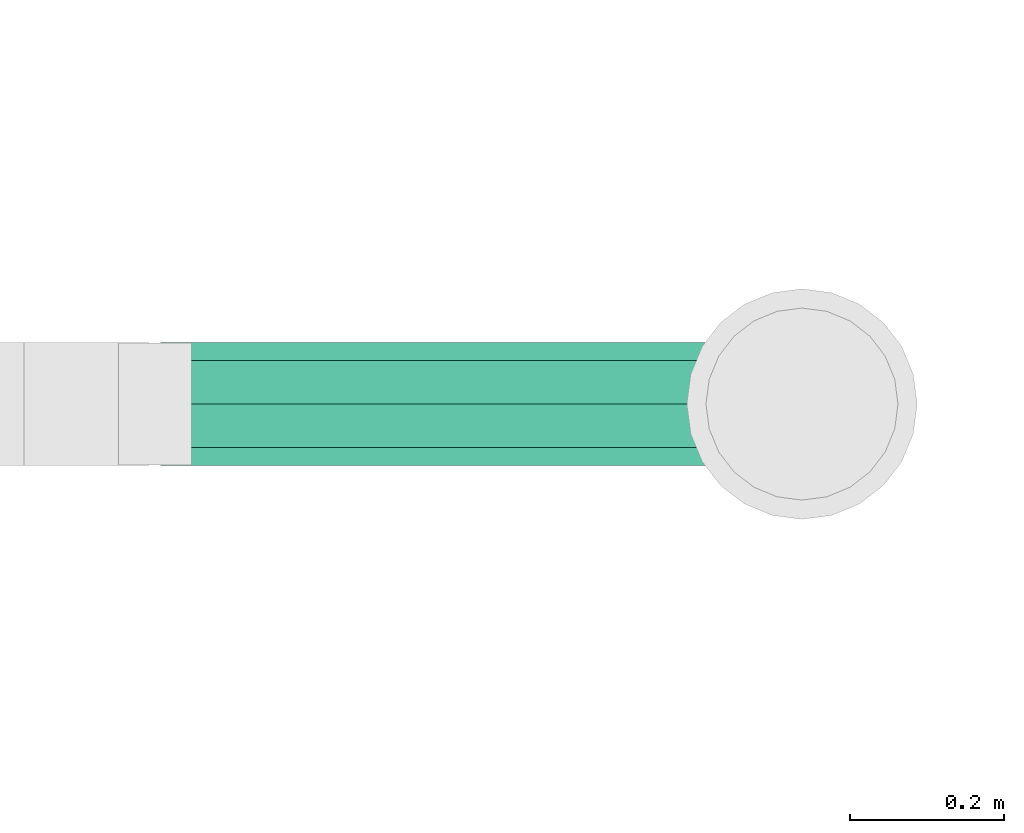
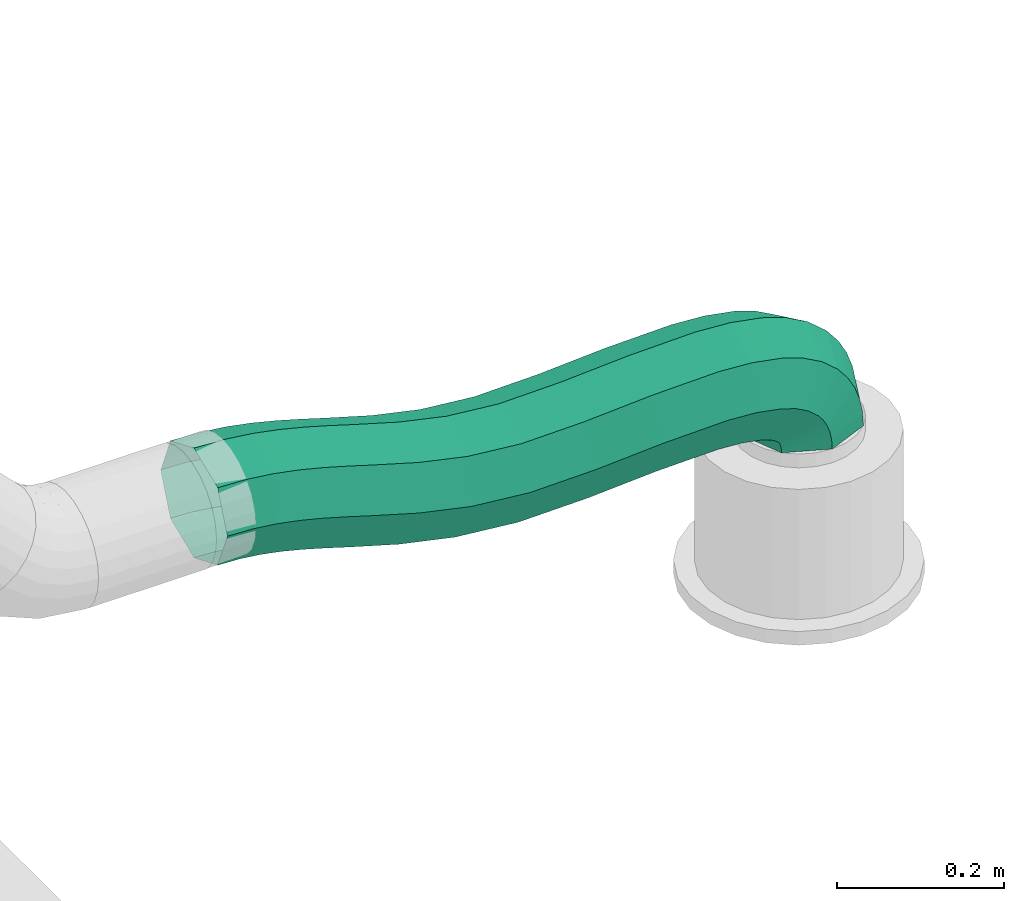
# One storey, part 25 of 119: 1 flow segment.
"""IFC2X3 building model written with IfcOpenShell, lengths in metres."""

from ifc_helpers import new_model, si_unit, direction, frame, origin, place, context, subcontext, project, spatial, open_shell, surface_model, source, transform, mapped, element, save


model = new_model("IFC2X3")

# Units and contexts
model_context = context("Model", 3, precision=1e-05, world=origin(), true_north=direction((-0.4480736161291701, 0.8939966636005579)))
body_context = subcontext(model_context, "Body", "Model", "MODEL_VIEW")
ifc_project = project(units=[si_unit("LENGTHUNIT", "METRE"), si_unit("AREAUNIT", "SQUARE_METRE"), si_unit("VOLUMEUNIT", "CUBIC_METRE"), si_unit("PLANEANGLEUNIT", "RADIAN"), si_unit("THERMODYNAMICTEMPERATUREUNIT", "KELVIN"), si_unit("MASSUNIT", "GRAM", prefix="KILO"), si_unit("TIMEUNIT", "SECOND")], contexts=[model_context])

# Site, building, storey
site_placement = place(None, origin())
site = spatial("IfcSite", under=ifc_project, at=site_placement, Name="Site 1", CompositionType="ELEMENT")
building_placement = place(site_placement, origin())
building = spatial("IfcBuilding", under=site, at=building_placement, Name="Undefined", CompositionType="ELEMENT")
storey_placement = place(building_placement, frame((0.0, 0.0, 5.4)))
storey = spatial("IfcBuildingStorey", under=building, at=storey_placement, Name="R+1", CompositionType="ELEMENT", Elevation=5.4)

# Flow segment
shared_shape = source(origin(), body_context, "Body", "SurfaceModel", [
    surface_model("IfcFaceBasedSurfaceModel", [(0.0733939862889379, 7.105427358e-15, 1.11022302e-16), (0.02176704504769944, 0.03291947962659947, 1.11022302e-16), (0.0, 0.0, 0.0), (0.05054803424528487, -0.034553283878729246, 2.818695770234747e-06), (-0.02184490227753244, -0.030906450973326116, -0.0028399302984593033), (0.027691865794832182, -0.06689431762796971, -0.002963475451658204), (-0.043543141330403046, -0.059946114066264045, -0.007872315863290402), (0.005155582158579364, -0.0970590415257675, -0.008185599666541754), (-0.06499777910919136, -0.08746443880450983, -0.014441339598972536), (-0.01691114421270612, -0.12536511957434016, -0.014938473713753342), (-0.08617160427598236, -0.11386855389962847, -0.021929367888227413), (-0.03844310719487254, -0.15221744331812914, -0.022551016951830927), (-0.10683839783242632, -0.13930237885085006, -0.029688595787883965), (-0.05910780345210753, -0.17764867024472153, -0.03030948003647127), (-0.14804404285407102, -0.19049045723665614, -0.04452208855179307), (-0.09975528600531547, -0.2281340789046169, -0.04495442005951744), (-0.18926424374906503, -0.24461396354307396, -0.05547253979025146), (-0.1396715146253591, -0.2805247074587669, -0.05558607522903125), (-0.23191867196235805, -0.3061810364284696, -0.0593930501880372), (-0.18076355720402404, -0.3398290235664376, -0.05937313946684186), (-0.2778999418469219, -0.37951889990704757, -0.05433115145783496), (-0.22576617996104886, -0.4116296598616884, -0.05438743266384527), (-0.3263917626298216, -0.45971354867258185, -0.04519091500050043), (-0.2742186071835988, -0.49176025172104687, -0.045253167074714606), (-0.3745892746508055, -0.5369149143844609, -0.039446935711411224), (-0.3230066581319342, -0.5699038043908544, -0.03944376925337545), (-0.40040773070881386, -0.5752077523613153, -0.04045162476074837), (-0.35038104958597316, -0.6105116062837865, -0.04049932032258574), (-0.42515537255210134, -0.6085684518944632, -0.04587151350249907), (-0.37674872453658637, -0.6460607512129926, -0.04626789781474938), (-0.4442722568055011, -0.6314160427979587, -0.053953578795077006), (-0.398364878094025, -0.6719065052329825, -0.05539171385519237), (-0.4634826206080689, -0.6511878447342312, -0.0663235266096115), (-0.42041778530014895, -0.6945887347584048, -0.06961228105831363), (-0.48164040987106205, -0.6663465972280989, -0.08272015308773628), (-0.4413182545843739, -0.712067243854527, -0.08844548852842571), (-0.4951964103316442, -0.6750063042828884, -0.09850303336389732), (-0.45779669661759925, -0.7226277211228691, -0.10758572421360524), (-0.5063773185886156, -0.6799667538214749, -0.11442889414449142), (-0.471055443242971, -0.7285089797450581, -0.1264725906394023), (-0.516526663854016, -0.6822989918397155, -0.1317783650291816), (-0.48300135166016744, -0.7312546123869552, -0.1468923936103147), (-0.5254406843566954, -0.6820794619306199, -0.15003884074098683), (-0.4933530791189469, -0.7310016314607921, -0.16809542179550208), (-0.5330934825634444, -0.6795485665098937, -0.16883770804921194), (-0.502080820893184, -0.7281189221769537, -0.1895299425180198), (-0.015670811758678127, 0.05473527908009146, -0.043260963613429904), (-0.0348331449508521, 0.025760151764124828, -0.043267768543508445), (-0.05423663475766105, -0.0016829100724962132, -0.04580262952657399), (-0.0739116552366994, -0.028006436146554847, -0.05037694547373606), (-0.09388858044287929, -0.053622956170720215, -0.056502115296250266), (-0.11419778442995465, -0.07894499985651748, -0.06368953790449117), (-0.1348696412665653, -0.10438509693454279, -0.07145061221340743), (-0.17742280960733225, -0.15726957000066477, -0.08673931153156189), (-0.22179107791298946, -0.2155766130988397, -0.09845940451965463), (-0.2682174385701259, -0.2826064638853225, -0.10270208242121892), (-0.31656137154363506, -0.3596555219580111, -0.09745624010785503), (-0.36514829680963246, -0.44000481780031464, -0.0883015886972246), (-0.41192012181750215, -0.5149315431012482, -0.08271554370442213), (-0.43398221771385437, -0.5476355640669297, -0.08359744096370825), (-0.45481875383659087, -0.5757128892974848, -0.08817552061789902), (-0.46790186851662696, -0.5913222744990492, -0.09374257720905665), (-0.4802497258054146, -0.6040676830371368, -0.10164473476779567), (-0.49178610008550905, -0.6136260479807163, -0.11215893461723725), (-0.49828670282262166, -0.6176968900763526, -0.11983644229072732), (-0.5044512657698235, -0.6204343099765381, -0.12861380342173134), (-0.5102633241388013, -0.6217685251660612, -0.13855083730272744), (-0.5157064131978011, -0.6216297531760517, -0.14970736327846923), (-0.5207640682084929, -0.6199482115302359, -0.16214320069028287), (-0.01698899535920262, 0.05266799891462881, -0.10444120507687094), (-0.033546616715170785, 0.027637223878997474, -0.10445481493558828), (-0.05050869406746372, 0.0036575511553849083, -0.10668460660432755), (-0.06816049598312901, -0.019949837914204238, -0.11080085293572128), (-0.08665970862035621, -0.04366455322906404, -0.11648216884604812), (-0.10610429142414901, -0.06790452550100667, -0.1233689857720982), (-0.1267812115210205, -0.09335089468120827, -0.1311319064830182), (-0.17068190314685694, -0.14793176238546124, -0.14687581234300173), (-0.2181982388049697, -0.21042234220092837, -0.15936554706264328), (-0.26839653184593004, -0.2829149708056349, -0.16393039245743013), (-0.3191031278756, -0.3636752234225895, -0.15850060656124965), (-0.3677851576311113, -0.4441791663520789, -0.1493315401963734), (-0.4131312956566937, -0.5168312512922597, -0.14390342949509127), (-0.4314370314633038, -0.5439464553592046, -0.14466253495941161), (-0.448362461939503, -0.5667404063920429, -0.14839880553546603), (-0.45541180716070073, -0.5751115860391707, -0.1514508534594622), (-0.4608971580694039, -0.580830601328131, -0.15488522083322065), (-0.46581211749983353, -0.5847885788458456, -0.15951699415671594), (-0.46525732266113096, -0.5842705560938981, -0.15908912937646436), (-0.4664055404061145, -0.5847849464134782, -0.16071799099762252), (-0.46788031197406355, -0.5851211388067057, -0.16324258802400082), (-0.469852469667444, -0.5850631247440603, -0.1672951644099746), (-0.4723149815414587, -0.5842309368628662, -0.1733679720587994), (0.01858466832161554, 0.02792862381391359, -0.14770216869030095), (0.0031059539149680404, 0.004531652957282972, -0.1477185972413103), (-0.012844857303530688, -0.018013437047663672, -0.14982202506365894), (-0.029658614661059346, -0.04049576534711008, -0.153748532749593), (-0.04754573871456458, -0.0634227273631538, -0.15924599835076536), (-0.06663218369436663, -0.08721449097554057, -0.1660083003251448), (-0.08731120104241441, -0.11266345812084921, -0.17377198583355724), (-0.1317700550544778, -0.1679469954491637, -0.18970444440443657), (-0.18059036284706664, -0.2321704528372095, -0.2025129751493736), (-0.23235104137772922, -0.3069258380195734, -0.2072112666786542), (-0.2840362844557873, -0.3892233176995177, -0.20170528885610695), (-0.332757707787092, -0.46979131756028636, -0.19253025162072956), (-0.3775133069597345, -0.5415012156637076, -0.1871675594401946), (-0.39426310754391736, -0.5663014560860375, -0.1878758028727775), (-0.4095685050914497, -0.5869069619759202, -0.19126338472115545), (-0.4141185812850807, -0.592279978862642, -0.19327368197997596), (-0.4167613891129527, -0.5950885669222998, -0.19485743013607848), (-0.4189336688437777, -0.596726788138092, -0.19705262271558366), (-0.4154564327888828, -0.5943079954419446, -0.19326740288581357), (-0.414526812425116, -0.5939015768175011, -0.19193525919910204), (-0.41420502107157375, -0.5938243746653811, -0.19138952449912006), (-0.4147394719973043, -0.5937998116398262, -0.19249954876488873), (-0.4161270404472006, -0.5933194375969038, -0.19593670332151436), (0.070211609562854, -0.004990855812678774, -0.1477021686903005), (0.05365398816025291, -0.03002163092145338, -0.14771577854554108), (0.03669191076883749, -0.05400130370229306, -0.14994557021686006), (0.01904010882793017, -0.07760869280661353, -0.15406181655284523), (0.0005408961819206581, -0.10132340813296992, -0.15974313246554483), (-0.01890368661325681, -0.12556338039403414, -0.16662994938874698), (-0.03958060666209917, -0.15100974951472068, -0.17439287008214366), (-0.08348129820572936, -0.20559061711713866, -0.19013677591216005), (-0.13099763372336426, -0.26808119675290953, -0.20262651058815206), (-0.1811959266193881, -0.3405738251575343, -0.2071913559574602), (-0.23190252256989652, -0.4213340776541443, -0.20176157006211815), (-0.28058455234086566, -0.5018380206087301, -0.19259250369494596), (-0.3259306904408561, -0.5744901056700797, -0.1871643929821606), (-0.34423642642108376, -0.6016053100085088, -0.18792349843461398), (-0.36116185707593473, -0.6243992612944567, -0.19165976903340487), (-0.36821120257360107, -0.6327704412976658, -0.19471181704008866), (-0.37369655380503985, -0.6384894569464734, -0.1981461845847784), (-0.3786115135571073, -0.6424474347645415, -0.20277795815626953), (-0.3780567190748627, -0.6419294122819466, -0.20235009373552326), (-0.37920493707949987, -0.6424438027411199, -0.2039789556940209), (-0.38067970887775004, -0.642779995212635, -0.20650355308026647), (-0.38265186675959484, -0.642721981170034, -0.21055612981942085), (-0.3851143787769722, -0.6418897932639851, -0.2166289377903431), (0.10764946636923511, -0.026806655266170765, -0.10444120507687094), (0.08848713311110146, -0.0557817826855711, -0.10444801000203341), (0.06908364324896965, -0.08322484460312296, -0.10698287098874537), (0.049408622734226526, -0.10954837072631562, -0.11155718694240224), (0.02943169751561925, -0.13516489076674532, -0.1176823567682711), (0.009122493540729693, -0.16048693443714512, -0.12486977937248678), (-0.01154936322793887, -0.18592703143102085, -0.13263085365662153), (-0.05410253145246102, -0.23881150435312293, -0.147919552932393), (-0.09847079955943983, -0.297118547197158, -0.1596396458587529), (-0.14489716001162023, -0.36414839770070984, -0.1638823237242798), (-0.19324109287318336, -0.4411974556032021, -0.15863648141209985), (-0.24182801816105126, -0.5215467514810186, -0.1494818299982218), (-0.28859984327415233, -0.5964734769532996, -0.14389578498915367), (-0.31066193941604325, -0.6291774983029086, -0.14477768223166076), (-0.3314984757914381, -0.6572548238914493, -0.1493557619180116), (-0.3445815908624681, -0.6728642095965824, -0.15492281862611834), (-0.35692944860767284, -0.6856096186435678, -0.16282497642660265), (-0.36846582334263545, -0.6951679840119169, -0.17333917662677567), (-0.37496642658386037, -0.6992388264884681, -0.18101668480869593), (-0.38113098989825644, -0.7019762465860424, -0.18979404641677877), (-0.3869430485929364, -0.7033104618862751, -0.1997310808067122), (-0.39238613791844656, -0.7031716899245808, -0.21088760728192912), (-0.39744379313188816, -0.7014901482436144, -0.2233234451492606), (0.10896764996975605, -0.024739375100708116, -0.04326096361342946), (0.08720060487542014, -0.05765885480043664, -0.04326096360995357), (0.06535570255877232, -0.08856530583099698, -0.046100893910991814), (0.043657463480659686, -0.11760496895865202, -0.051133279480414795), (0.02220282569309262, -0.1451232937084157, -0.05770230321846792), (0.0010290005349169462, -0.17152740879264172, -0.06519033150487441), (-0.019637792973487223, -0.19696123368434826, -0.07294955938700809), (-0.060843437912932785, -0.24814931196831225, -0.0877830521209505), (-0.10206363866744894, -0.3022728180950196, -0.09873350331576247), (-0.144718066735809, -0.36383989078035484, -0.10265401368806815), (-0.19069933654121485, -0.43717775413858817, -0.09759211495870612), (-0.2391911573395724, -0.517372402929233, -0.08845187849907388), (-0.2873886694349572, -0.5945737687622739, -0.08270789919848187), (-0.31320712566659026, -0.6328666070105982, -0.08371258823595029), (-0.33795476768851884, -0.6662273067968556, -0.08913247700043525), (-0.35707165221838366, -0.6890748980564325, -0.09721454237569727), (-0.3762820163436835, -0.7088467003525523, -0.10958449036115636), (-0.39443980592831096, -0.7240054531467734, -0.1259811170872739), (-0.4079958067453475, -0.7326651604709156, -0.14176399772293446), (-0.4191767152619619, -0.7376256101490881, -0.15768985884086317), (-0.4293260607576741, -0.7399578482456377, -0.17503933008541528), (-0.4382400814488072, -0.7397383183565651, -0.19329980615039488), (-0.44589287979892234, -0.7372074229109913, -0.21209867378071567)], [open_shell([[[0, 1, 2]], [[2, 3, 0]], [[3, 2, 4]], [[4, 5, 3]], [[5, 4, 6]], [[6, 7, 5]], [[7, 6, 8]], [[8, 9, 7]], [[9, 8, 10]], [[10, 11, 9]], [[11, 10, 12]], [[12, 13, 11]], [[13, 12, 14]], [[14, 15, 13]], [[15, 14, 16]], [[16, 17, 15]], [[17, 16, 18]], [[18, 19, 17]], [[19, 18, 20]], [[20, 21, 19]], [[21, 20, 22]], [[22, 23, 21]], [[23, 22, 24]], [[24, 25, 23]], [[25, 24, 26]], [[26, 27, 25]], [[27, 26, 28]], [[28, 29, 27]], [[29, 28, 30]], [[30, 31, 29]], [[31, 30, 32]], [[32, 33, 31]], [[33, 32, 34]], [[34, 35, 33]], [[35, 34, 36]], [[36, 37, 35]], [[37, 36, 38]], [[38, 39, 37]], [[39, 38, 40]], [[40, 41, 39]], [[41, 40, 42]], [[42, 43, 41]], [[43, 42, 44]], [[44, 45, 43]], [[1, 46, 47]], [[47, 2, 1]], [[2, 47, 48]], [[48, 4, 2]], [[4, 48, 49]], [[49, 6, 4]], [[6, 49, 50]], [[50, 8, 6]], [[8, 50, 51]], [[51, 10, 8]], [[10, 51, 52]], [[52, 12, 10]], [[12, 52, 53]], [[53, 14, 12]], [[14, 53, 54]], [[54, 16, 14]], [[16, 54, 55]], [[55, 18, 16]], [[18, 55, 56]], [[56, 20, 18]], [[20, 56, 57]], [[57, 22, 20]], [[22, 57, 58]], [[58, 24, 22]], [[24, 58, 59]], [[59, 26, 24]], [[26, 59, 60]], [[60, 28, 26]], [[28, 60, 61]], [[61, 30, 28]], [[30, 61, 62]], [[62, 32, 30]], [[32, 62, 63]], [[63, 34, 32]], [[34, 63, 64]], [[64, 36, 34]], [[36, 64, 65]], [[65, 38, 36]], [[38, 65, 66]], [[66, 40, 38]], [[40, 66, 67]], [[67, 42, 40]], [[42, 67, 68]], [[68, 44, 42]], [[46, 69, 70]], [[70, 47, 46]], [[47, 70, 71]], [[71, 48, 47]], [[48, 71, 72]], [[72, 49, 48]], [[49, 72, 73]], [[73, 50, 49]], [[50, 73, 74]], [[74, 51, 50]], [[51, 74, 75]], [[75, 52, 51]], [[52, 75, 76]], [[76, 53, 52]], [[53, 76, 77]], [[77, 54, 53]], [[54, 77, 78]], [[78, 55, 54]], [[55, 78, 79]], [[79, 56, 55]], [[56, 79, 80]], [[80, 57, 56]], [[57, 80, 81]], [[81, 58, 57]], [[58, 81, 82]], [[82, 59, 58]], [[59, 82, 83]], [[83, 60, 59]], [[60, 83, 84]], [[84, 61, 60]], [[61, 84, 85]], [[85, 62, 61]], [[62, 85, 86]], [[86, 63, 62]], [[63, 86, 87]], [[87, 64, 63]], [[64, 87, 88]], [[88, 65, 64]], [[65, 88, 89]], [[89, 66, 65]], [[66, 89, 90]], [[90, 67, 66]], [[67, 90, 91]], [[91, 68, 67]], [[69, 92, 93]], [[93, 70, 69]], [[70, 93, 94]], [[94, 71, 70]], [[71, 94, 95]], [[95, 72, 71]], [[72, 95, 96]], [[96, 73, 72]], [[73, 96, 97]], [[97, 74, 73]], [[74, 97, 98]], [[98, 75, 74]], [[75, 98, 99]], [[99, 76, 75]], [[76, 99, 100]], [[100, 77, 76]], [[77, 100, 101]], [[101, 78, 77]], [[78, 101, 102]], [[102, 79, 78]], [[79, 102, 103]], [[103, 80, 79]], [[80, 103, 104]], [[104, 81, 80]], [[81, 104, 105]], [[105, 82, 81]], [[82, 105, 106]], [[106, 83, 82]], [[83, 106, 107]], [[107, 84, 83]], [[84, 107, 108]], [[108, 85, 84]], [[85, 108, 109]], [[109, 86, 85]], [[86, 109, 110]], [[110, 87, 86]], [[87, 110, 111]], [[111, 88, 87]], [[88, 111, 112]], [[112, 89, 88]], [[89, 112, 113]], [[113, 90, 89]], [[90, 113, 114]], [[114, 91, 90]], [[92, 115, 116]], [[116, 93, 92]], [[93, 116, 117]], [[117, 94, 93]], [[94, 117, 118]], [[118, 95, 94]], [[95, 118, 119]], [[119, 96, 95]], [[96, 119, 120]], [[120, 97, 96]], [[97, 120, 121]], [[121, 98, 97]], [[98, 121, 122]], [[122, 99, 98]], [[99, 122, 123]], [[123, 100, 99]], [[100, 123, 124]], [[124, 101, 100]], [[101, 124, 125]], [[125, 102, 101]], [[102, 125, 126]], [[126, 103, 102]], [[103, 126, 127]], [[127, 104, 103]], [[104, 127, 128]], [[128, 105, 104]], [[105, 128, 129]], [[129, 106, 105]], [[106, 129, 130]], [[130, 107, 106]], [[107, 130, 131]], [[131, 108, 107]], [[108, 131, 132]], [[132, 109, 108]], [[109, 132, 133]], [[133, 110, 109]], [[110, 133, 134]], [[134, 111, 110]], [[111, 134, 135]], [[135, 112, 111]], [[112, 135, 136]], [[136, 113, 112]], [[113, 136, 137]], [[137, 114, 113]], [[115, 138, 139]], [[139, 116, 115]], [[116, 139, 140]], [[140, 117, 116]], [[117, 140, 141]], [[141, 118, 117]], [[118, 141, 142]], [[142, 119, 118]], [[119, 142, 143]], [[143, 120, 119]], [[120, 143, 144]], [[144, 121, 120]], [[121, 144, 145]], [[145, 122, 121]], [[122, 145, 146]], [[146, 123, 122]], [[123, 146, 147]], [[147, 124, 123]], [[124, 147, 148]], [[148, 125, 124]], [[125, 148, 149]], [[149, 126, 125]], [[126, 149, 150]], [[150, 127, 126]], [[127, 150, 151]], [[151, 128, 127]], [[128, 151, 152]], [[152, 129, 128]], [[129, 152, 153]], [[153, 130, 129]], [[130, 153, 154]], [[154, 131, 130]], [[131, 154, 155]], [[155, 132, 131]], [[132, 155, 156]], [[156, 133, 132]], [[133, 156, 157]], [[157, 134, 133]], [[134, 157, 158]], [[158, 135, 134]], [[135, 158, 159]], [[159, 136, 135]], [[136, 159, 160]], [[160, 137, 136]], [[138, 161, 162]], [[162, 139, 138]], [[139, 162, 163]], [[163, 140, 139]], [[140, 163, 164]], [[164, 141, 140]], [[141, 164, 165]], [[165, 142, 141]], [[142, 165, 166]], [[166, 143, 142]], [[143, 166, 167]], [[167, 144, 143]], [[144, 167, 168]], [[168, 145, 144]], [[145, 168, 169]], [[169, 146, 145]], [[146, 169, 170]], [[170, 147, 146]], [[147, 170, 171]], [[171, 148, 147]], [[148, 171, 172]], [[172, 149, 148]], [[149, 172, 173]], [[173, 150, 149]], [[150, 173, 174]], [[174, 151, 150]], [[151, 174, 175]], [[175, 152, 151]], [[152, 175, 176]], [[176, 153, 152]], [[153, 176, 177]], [[177, 154, 153]], [[154, 177, 178]], [[178, 155, 154]], [[155, 178, 179]], [[179, 156, 155]], [[156, 179, 180]], [[180, 157, 156]], [[157, 180, 181]], [[181, 158, 157]], [[158, 181, 182]], [[182, 159, 158]], [[159, 182, 183]], [[183, 160, 159]], [[161, 0, 3]], [[3, 162, 161]], [[162, 3, 5]], [[5, 163, 162]], [[163, 5, 7]], [[7, 164, 163]], [[164, 7, 9]], [[9, 165, 164]], [[165, 9, 11]], [[11, 166, 165]], [[166, 11, 13]], [[13, 167, 166]], [[167, 13, 15]], [[15, 168, 167]], [[168, 15, 17]], [[17, 169, 168]], [[169, 17, 19]], [[19, 170, 169]], [[170, 19, 21]], [[21, 171, 170]], [[171, 21, 23]], [[23, 172, 171]], [[172, 23, 25]], [[25, 173, 172]], [[173, 25, 27]], [[27, 174, 173]], [[174, 27, 29]], [[29, 175, 174]], [[175, 29, 31]], [[31, 176, 175]], [[176, 31, 33]], [[33, 177, 176]], [[177, 33, 35]], [[35, 178, 177]], [[178, 35, 37]], [[37, 179, 178]], [[179, 37, 39]], [[39, 180, 179]], [[180, 39, 41]], [[41, 181, 180]], [[181, 41, 43]], [[43, 182, 181]], [[182, 43, 45]], [[45, 183, 182]]])]),
])
flow_segment_placement = place(storey_placement, origin())
element("IfcFlowSegment", 1, at=flow_segment_placement, inside=storey, Name="Tube flexible", ObjectType="Tube flexible", context=body_context, shape_type="MappedRepresentation", body=[
    mapped(shared_shape, transform((47.345636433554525, 10.329064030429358, 2.8048582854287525), x_axis=(-0.5372109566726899, 0.7707517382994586, 0.3425582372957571), y_axis=(-0.8424968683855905, -0.5096370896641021, -0.17455389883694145), z_axis=(0.04004266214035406, -0.38237650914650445, 0.9231385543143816))),
])

save(model, "model.ifc")
